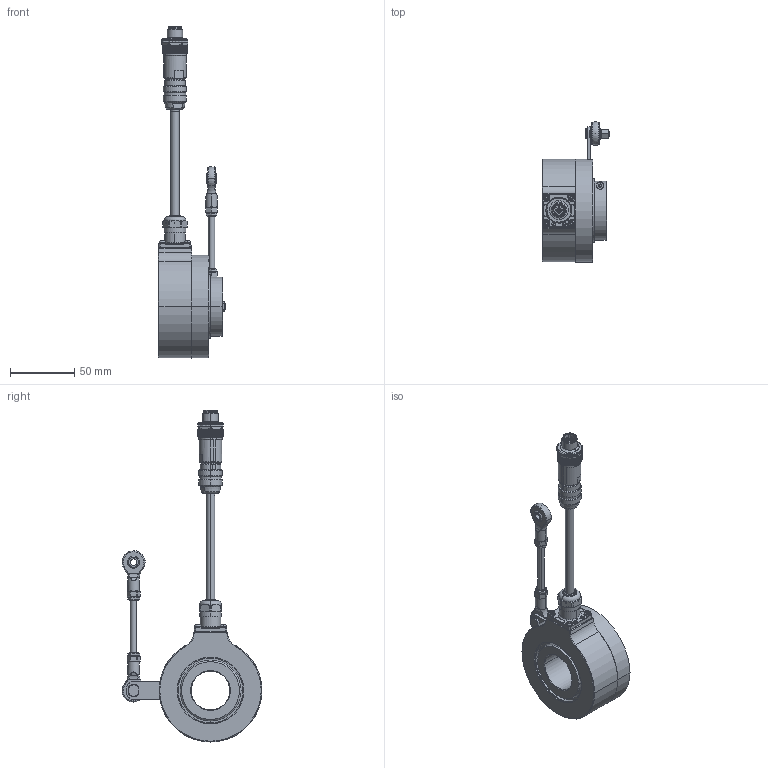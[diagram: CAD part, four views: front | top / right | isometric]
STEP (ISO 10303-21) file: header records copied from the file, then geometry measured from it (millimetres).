
FILE_DESCRIPTION (( 'STEP AP203' ), '1' );
FILE_NAME ('K80I.OXX.XXXXX.XH16830.6XR13.XXXX.step', '2025-12-09T08:19:55', ( '' ), ( '' ), 'SwSTEP 2.0', 'SolidWorks 2021', '' );
FILE_SCHEMA (( 'CONFIG_CONTROL_DESIGN' ));
Length unit declared in the file: millimetre
Products named in the file (1): K80I.OXX.XXXXX.XH16830.6XR13.XXXX
Bounding box: 52.6 x 108.97 x 258.56 mm (x, y, z)
Volume: 217662.9 mm3; surface area: 72061.2 mm2
Topology: 29 solids, 29 shells, 1871 faces, 4614 edges, 2812 vertices
Faces by surface type: plane 698, cylinder 592, cone 374, bspline 112, torus 65, sphere 30
Entity records: 59530 total; most frequent: CARTESIAN_POINT 16694, ORIENTED_EDGE 9128, DIRECTION 8807, EDGE_CURVE 4564, AXIS2_PLACEMENT_3D 3499, VERTEX_POINT 2806, EDGE_LOOP 1964, ADVANCED_FACE 1871
